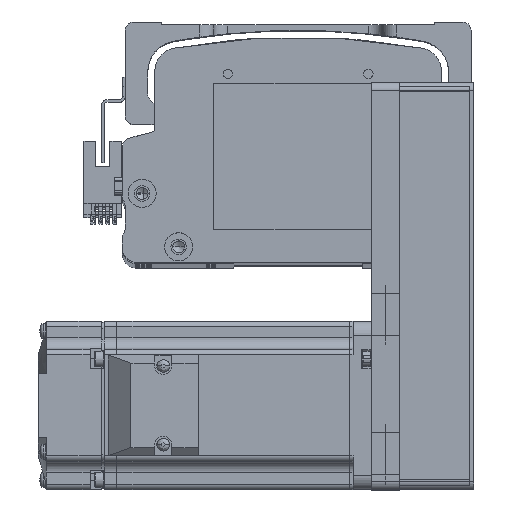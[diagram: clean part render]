
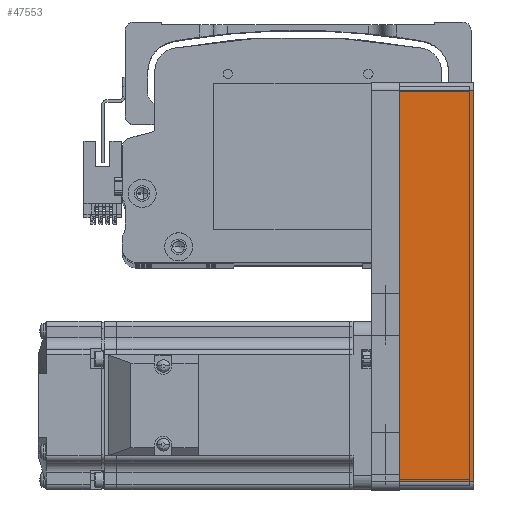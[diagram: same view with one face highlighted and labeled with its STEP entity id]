
A CAD part, top view. The second image highlights one B-rep face of the part: STEP entity #47553.
In plain terms, the highlighted planar face has unit normal (0, 0, 1) as drawn and (0, -1, 0) by its records, which use the part's own axes.
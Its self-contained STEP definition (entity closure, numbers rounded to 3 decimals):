
#519 = CARTESIAN_POINT ( 'NONE',  ( 72.5, -30., 0. ) ) ;
#823 = CARTESIAN_POINT ( 'NONE',  ( -69.5, -30., 26.5 ) ) ;
#4110 = CARTESIAN_POINT ( 'NONE',  ( 72.5, -30., 26.5 ) ) ;
#4293 = DIRECTION ( 'NONE',  ( -1., 0., 0. ) ) ;
#6985 = DIRECTION ( 'NONE',  ( 1., 0., 0. ) ) ;
#7285 = DIRECTION ( 'NONE',  ( 0., 0., -1. ) ) ;
#9478 = VECTOR ( 'NONE', #10545, 1000. ) ;
#10545 = DIRECTION ( 'NONE',  ( 1., 0., 0. ) ) ;
#10903 = ORIENTED_EDGE ( 'NONE', *, *, #17955, .F. ) ;
#11733 = AXIS2_PLACEMENT_3D ( 'NONE', #81377, #42851, #4293 ) ;
#14886 = VERTEX_POINT ( 'NONE', #70369 ) ;
#17955 = EDGE_CURVE ( 'NONE', #52424, #14886, #77954, .T. ) ;
#23340 = DIRECTION ( 'NONE',  ( 0., 0., 1. ) ) ;
#24180 = ORIENTED_EDGE ( 'NONE', *, *, #55388, .T. ) ;
#31670 = VERTEX_POINT ( 'NONE', #65538 ) ;
#40120 = VECTOR ( 'NONE', #6985, 1000. ) ;
#42697 = VECTOR ( 'NONE', #23340, 1000. ) ;
#42815 = CARTESIAN_POINT ( 'NONE',  ( 69.5, -30., 26.5 ) ) ;
#42851 = DIRECTION ( 'NONE',  ( 0., 1., 0. ) ) ;
#44293 = ORIENTED_EDGE ( 'NONE', *, *, #53730, .T. ) ;
#44770 = FACE_OUTER_BOUND ( 'NONE', #79295, .T. ) ;
#47553 = ADVANCED_FACE ( 'NONE', ( #44770 ), #61660, .F. ) ;
#49046 = LINE ( 'NONE', #519, #40120 ) ;
#52424 = VERTEX_POINT ( 'NONE', #82075 ) ;
#52486 = VERTEX_POINT ( 'NONE', #76095 ) ;
#53730 = EDGE_CURVE ( 'NONE', #52486, #31670, #49046, .T. ) ;
#55388 = EDGE_CURVE ( 'NONE', #31670, #14886, #76864, .T. ) ;
#61660 = PLANE ( 'NONE',  #11733 ) ;
#61748 = VECTOR ( 'NONE', #7285, 1000. ) ;
#65538 = CARTESIAN_POINT ( 'NONE',  ( 69.5, -30., 0. ) ) ;
#70369 = CARTESIAN_POINT ( 'NONE',  ( 69.5, -30., 26.5 ) ) ;
#71541 = EDGE_CURVE ( 'NONE', #52424, #52486, #78875, .T. ) ;
#76095 = CARTESIAN_POINT ( 'NONE',  ( -69.5, -30., 0. ) ) ;
#76864 = LINE ( 'NONE', #42815, #42697 ) ;
#77954 = LINE ( 'NONE', #4110, #9478 ) ;
#78875 = LINE ( 'NONE', #823, #61748 ) ;
#79295 = EDGE_LOOP ( 'NONE', ( #44293, #24180, #10903, #82184 ) ) ;
#81377 = CARTESIAN_POINT ( 'NONE',  ( 72.5, -30., 26.5 ) ) ;
#82075 = CARTESIAN_POINT ( 'NONE',  ( -69.5, -30., 26.5 ) ) ;
#82184 = ORIENTED_EDGE ( 'NONE', *, *, #71541, .T. ) ;
